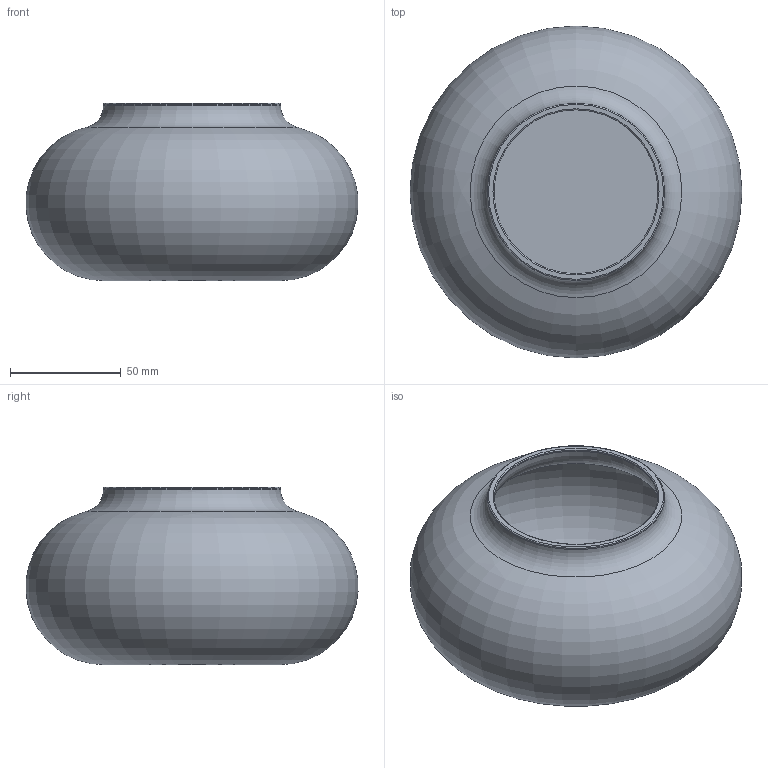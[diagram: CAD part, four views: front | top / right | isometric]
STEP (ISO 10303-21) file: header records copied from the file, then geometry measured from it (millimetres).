
FILE_DESCRIPTION( ( 'Unknown' ), '1' );
FILE_NAME( 'C:/Users/Bariani_F/Desktop/DANESE FRANCESCO/DANESE SPACE 2020/GIULIO IACCHETTI/DECANTER/CARA.stp', 'Unknown', ( 'Unknown' ), ( 'Unknown' ), 'PSStep 14.0', 'Unknown', ' ' );
FILE_SCHEMA( ( 'AUTOMOTIVE_DESIGN { 1 0 10303 214 1 1 1 1 }' ) );
Length unit declared in the file: millimetre
Products named in the file (1): 1
Bounding box: 149.87 x 149.87 x 80 mm (x, y, z)
Volume: 143520.4 mm3; surface area: 96338.3 mm2
Topology: 1 solids, 1 shells, 11 faces, 21 edges, 13 vertices
Faces by surface type: torus 6, plane 3, cylinder 2
Full cylindrical faces by diameter (mm): 74 x1, 80 x1
Entity records: 318 total; most frequent: DIRECTION 44, CARTESIAN_POINT 32, AXIS2_PLACEMENT_3D 22, EDGE_LOOP 20, ORIENTED_EDGE 20, FACE_OUTER_BOUND 19, STYLED_ITEM 11, PRESENTATION_STYLE_ASSIGNMENT 11
